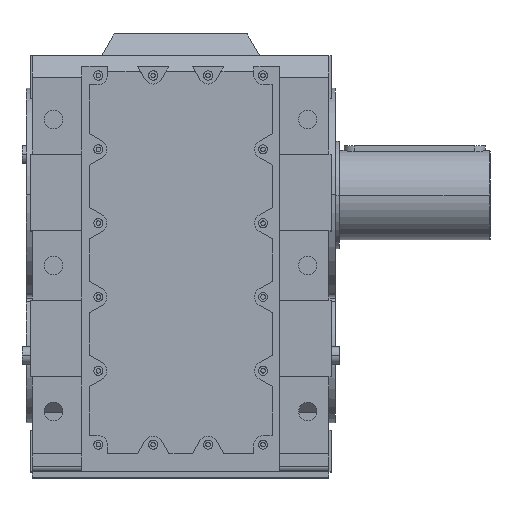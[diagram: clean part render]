
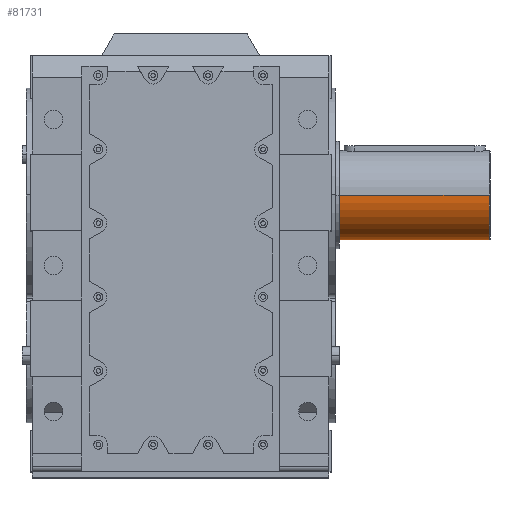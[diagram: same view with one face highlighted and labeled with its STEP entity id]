
A CAD part, top view. The second image highlights one B-rep face of the part: STEP entity #81731.
In plain terms, the highlighted cylindrical face has radius 95 mm (diameter 190 mm), a partial arc.
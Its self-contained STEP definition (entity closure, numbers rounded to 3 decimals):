
#80741 = PLANE('',#80742);
#80742 = AXIS2_PLACEMENT_3D('',#80743,#80744,#80745);
#80743 = CARTESIAN_POINT('',(337.,95.,0.));
#80744 = DIRECTION('',(-1.,0.,0.));
#80745 = DIRECTION('',(0.,0.,1.));
#80827 = VERTEX_POINT('',#80828);
#80828 = CARTESIAN_POINT('',(337.,0.,95.));
#80829 = VERTEX_POINT('',#80830);
#80830 = CARTESIAN_POINT('',(337.,0.,-95.));
#80845 = CYLINDRICAL_SURFACE('',#80846,95.);
#80846 = AXIS2_PLACEMENT_3D('',#80847,#80848,#80849);
#80847 = CARTESIAN_POINT('',(0.,0.,0.));
#80848 = DIRECTION('',(-1.,0.,0.));
#80849 = DIRECTION('',(0.,0.,1.));
#80856 = EDGE_CURVE('',#80829,#80827,#80857,.T.);
#80857 = SURFACE_CURVE('',#80858,(#80863,#80870),.PCURVE_S1.);
#80858 = CIRCLE('',#80859,95.);
#80859 = AXIS2_PLACEMENT_3D('',#80860,#80861,#80862);
#80860 = CARTESIAN_POINT('',(337.,0.,0.));
#80861 = DIRECTION('',(-1.,0.,0.));
#80862 = DIRECTION('',(0.,0.,1.));
#80863 = PCURVE('',#80741,#80864);
#80864 = DEFINITIONAL_REPRESENTATION('',(#80865),#80869);
#80865 = CIRCLE('',#80866,95.);
#80866 = AXIS2_PLACEMENT_2D('',#80867,#80868);
#80867 = CARTESIAN_POINT('',(0.,-95.));
#80868 = DIRECTION('',(1.,0.));
#80869 = ( GEOMETRIC_REPRESENTATION_CONTEXT(2) 
PARAMETRIC_REPRESENTATION_CONTEXT() REPRESENTATION_CONTEXT('2D SPACE',''
  ) );
#80870 = PCURVE('',#80871,#80876);
#80871 = CYLINDRICAL_SURFACE('',#80872,95.);
#80872 = AXIS2_PLACEMENT_3D('',#80873,#80874,#80875);
#80873 = CARTESIAN_POINT('',(0.,0.,0.));
#80874 = DIRECTION('',(-1.,0.,0.));
#80875 = DIRECTION('',(0.,0.,1.));
#80876 = DEFINITIONAL_REPRESENTATION('',(#80877),#80880);
#80877 = B_SPLINE_CURVE_WITH_KNOTS('',1,(#80878,#80879),.UNSPECIFIED.,
  .F.,.F.,(2,2),(3.142,6.283),.PIECEWISE_BEZIER_KNOTS.);
#80878 = CARTESIAN_POINT('',(3.142,-337.));
#80879 = CARTESIAN_POINT('',(6.283,-337.));
#80880 = ( GEOMETRIC_REPRESENTATION_CONTEXT(2) 
PARAMETRIC_REPRESENTATION_CONTEXT() REPRESENTATION_CONTEXT('2D SPACE',''
  ) );
#81642 = VERTEX_POINT('',#81643);
#81643 = CARTESIAN_POINT('',(655.5,0.,95.));
#81644 = VERTEX_POINT('',#81645);
#81645 = CARTESIAN_POINT('',(655.5,0.,-95.));
#81693 = EDGE_CURVE('',#81644,#80829,#81694,.T.);
#81694 = SURFACE_CURVE('',#81695,(#81699,#81705),.PCURVE_S1.);
#81695 = LINE('',#81696,#81697);
#81696 = CARTESIAN_POINT('',(0.,0.,-95.));
#81697 = VECTOR('',#81698,1.);
#81698 = DIRECTION('',(-1.,0.,0.));
#81699 = PCURVE('',#80845,#81700);
#81700 = DEFINITIONAL_REPRESENTATION('',(#81701),#81704);
#81701 = B_SPLINE_CURVE_WITH_KNOTS('',1,(#81702,#81703),.UNSPECIFIED.,
  .F.,.F.,(2,2),(-655.5,-337.),.PIECEWISE_BEZIER_KNOTS.);
#81702 = CARTESIAN_POINT('',(3.142,-655.5));
#81703 = CARTESIAN_POINT('',(3.142,-337.));
#81704 = ( GEOMETRIC_REPRESENTATION_CONTEXT(2) 
PARAMETRIC_REPRESENTATION_CONTEXT() REPRESENTATION_CONTEXT('2D SPACE',''
  ) );
#81705 = PCURVE('',#80871,#81706);
#81706 = DEFINITIONAL_REPRESENTATION('',(#81707),#81710);
#81707 = B_SPLINE_CURVE_WITH_KNOTS('',1,(#81708,#81709),.UNSPECIFIED.,
  .F.,.F.,(2,2),(-655.5,-337.),.PIECEWISE_BEZIER_KNOTS.);
#81708 = CARTESIAN_POINT('',(3.142,-655.5));
#81709 = CARTESIAN_POINT('',(3.142,-337.));
#81710 = ( GEOMETRIC_REPRESENTATION_CONTEXT(2) 
PARAMETRIC_REPRESENTATION_CONTEXT() REPRESENTATION_CONTEXT('2D SPACE',''
  ) );
#81713 = EDGE_CURVE('',#81642,#80827,#81714,.T.);
#81714 = SURFACE_CURVE('',#81715,(#81719,#81725),.PCURVE_S1.);
#81715 = LINE('',#81716,#81717);
#81716 = CARTESIAN_POINT('',(0.,0.,95.));
#81717 = VECTOR('',#81718,1.);
#81718 = DIRECTION('',(-1.,0.,0.));
#81719 = PCURVE('',#80845,#81720);
#81720 = DEFINITIONAL_REPRESENTATION('',(#81721),#81724);
#81721 = B_SPLINE_CURVE_WITH_KNOTS('',1,(#81722,#81723),.UNSPECIFIED.,
  .F.,.F.,(2,2),(-655.5,-337.),.PIECEWISE_BEZIER_KNOTS.);
#81722 = CARTESIAN_POINT('',(0.,-655.5));
#81723 = CARTESIAN_POINT('',(0.,-337.));
#81724 = ( GEOMETRIC_REPRESENTATION_CONTEXT(2) 
PARAMETRIC_REPRESENTATION_CONTEXT() REPRESENTATION_CONTEXT('2D SPACE',''
  ) );
#81725 = PCURVE('',#80871,#81726);
#81726 = DEFINITIONAL_REPRESENTATION('',(#81727),#81730);
#81727 = B_SPLINE_CURVE_WITH_KNOTS('',1,(#81728,#81729),.UNSPECIFIED.,
  .F.,.F.,(2,2),(-655.5,-337.),.PIECEWISE_BEZIER_KNOTS.);
#81728 = CARTESIAN_POINT('',(6.283,-655.5));
#81729 = CARTESIAN_POINT('',(6.283,-337.));
#81730 = ( GEOMETRIC_REPRESENTATION_CONTEXT(2) 
PARAMETRIC_REPRESENTATION_CONTEXT() REPRESENTATION_CONTEXT('2D SPACE',''
  ) );
#81731 = ADVANCED_FACE('',(#81732),#80871,.T.);
#81732 = FACE_BOUND('',#81733,.T.);
#81733 = EDGE_LOOP('',(#81734,#81735,#81783,#81784));
#81734 = ORIENTED_EDGE('',*,*,#81693,.F.);
#81735 = ORIENTED_EDGE('',*,*,#81736,.T.);
#81736 = EDGE_CURVE('',#81644,#81642,#81737,.T.);
#81737 = SURFACE_CURVE('',#81738,(#81743,#81749),.PCURVE_S1.);
#81738 = CIRCLE('',#81739,95.);
#81739 = AXIS2_PLACEMENT_3D('',#81740,#81741,#81742);
#81740 = CARTESIAN_POINT('',(655.5,0.,0.));
#81741 = DIRECTION('',(-1.,0.,0.));
#81742 = DIRECTION('',(0.,0.,1.));
#81743 = PCURVE('',#80871,#81744);
#81744 = DEFINITIONAL_REPRESENTATION('',(#81745),#81748);
#81745 = B_SPLINE_CURVE_WITH_KNOTS('',1,(#81746,#81747),.UNSPECIFIED.,
  .F.,.F.,(2,2),(3.142,6.283),.PIECEWISE_BEZIER_KNOTS.);
#81746 = CARTESIAN_POINT('',(3.142,-655.5));
#81747 = CARTESIAN_POINT('',(6.283,-655.5));
#81748 = ( GEOMETRIC_REPRESENTATION_CONTEXT(2) 
PARAMETRIC_REPRESENTATION_CONTEXT() REPRESENTATION_CONTEXT('2D SPACE',''
  ) );
#81749 = PCURVE('',#81750,#81755);
#81750 = CONICAL_SURFACE('',#81751,93.5,0.785);
#81751 = AXIS2_PLACEMENT_3D('',#81752,#81753,#81754);
#81752 = CARTESIAN_POINT('',(657.,0.,0.));
#81753 = DIRECTION('',(-1.,0.,0.));
#81754 = DIRECTION('',(0.,0.,1.));
#81755 = DEFINITIONAL_REPRESENTATION('',(#81756),#81782);
#81756 = B_SPLINE_CURVE_WITH_KNOTS('',3,(#81757,#81758,#81759,#81760,
    #81761,#81762,#81763,#81764,#81765,#81766,#81767,#81768,#81769,
    #81770,#81771,#81772,#81773,#81774,#81775,#81776,#81777,#81778,
    #81779,#81780,#81781),.UNSPECIFIED.,.F.,.F.,(4,1,1,1,1,1,1,1,1,1,1,1
    ,1,1,1,1,1,1,1,1,1,1,4),(3.142,3.284,3.427
    ,3.57,3.713,3.856,3.998,
    4.141,4.284,4.427,4.57,
    4.712,4.855,4.998,5.141,
    5.284,5.426,5.569,5.712,
    5.855,5.998,6.14,6.283),
  .QUASI_UNIFORM_KNOTS.);
#81757 = CARTESIAN_POINT('',(3.142,1.5));
#81758 = CARTESIAN_POINT('',(3.189,1.5));
#81759 = CARTESIAN_POINT('',(3.284,1.5));
#81760 = CARTESIAN_POINT('',(3.427,1.5));
#81761 = CARTESIAN_POINT('',(3.57,1.5));
#81762 = CARTESIAN_POINT('',(3.713,1.5));
#81763 = CARTESIAN_POINT('',(3.856,1.5));
#81764 = CARTESIAN_POINT('',(3.998,1.5));
#81765 = CARTESIAN_POINT('',(4.141,1.5));
#81766 = CARTESIAN_POINT('',(4.284,1.5));
#81767 = CARTESIAN_POINT('',(4.427,1.5));
#81768 = CARTESIAN_POINT('',(4.57,1.5));
#81769 = CARTESIAN_POINT('',(4.712,1.5));
#81770 = CARTESIAN_POINT('',(4.855,1.5));
#81771 = CARTESIAN_POINT('',(4.998,1.5));
#81772 = CARTESIAN_POINT('',(5.141,1.5));
#81773 = CARTESIAN_POINT('',(5.284,1.5));
#81774 = CARTESIAN_POINT('',(5.426,1.5));
#81775 = CARTESIAN_POINT('',(5.569,1.5));
#81776 = CARTESIAN_POINT('',(5.712,1.5));
#81777 = CARTESIAN_POINT('',(5.855,1.5));
#81778 = CARTESIAN_POINT('',(5.998,1.5));
#81779 = CARTESIAN_POINT('',(6.14,1.5));
#81780 = CARTESIAN_POINT('',(6.236,1.5));
#81781 = CARTESIAN_POINT('',(6.283,1.5));
#81782 = ( GEOMETRIC_REPRESENTATION_CONTEXT(2) 
PARAMETRIC_REPRESENTATION_CONTEXT() REPRESENTATION_CONTEXT('2D SPACE',''
  ) );
#81783 = ORIENTED_EDGE('',*,*,#81713,.T.);
#81784 = ORIENTED_EDGE('',*,*,#80856,.F.);
